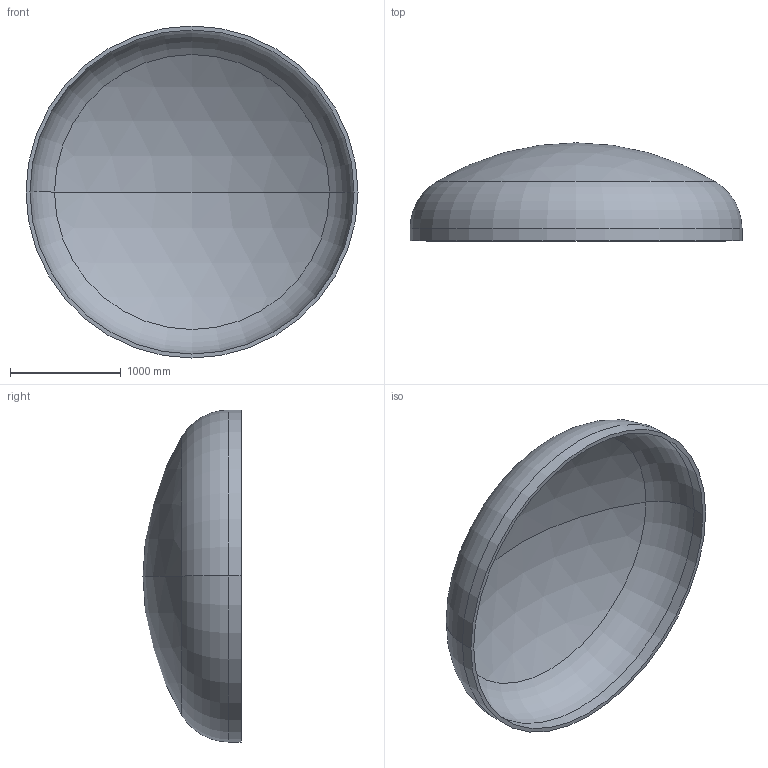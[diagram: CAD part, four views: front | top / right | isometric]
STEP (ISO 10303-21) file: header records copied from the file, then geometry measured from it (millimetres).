
FILE_DESCRIPTION (( 'STEP AP203' ), '1' );
FILE_NAME ('DIN 28013 Korbbogenform_-_Boden DIN 28013 - 3000 x 110 - I - s=36.step', '2016-07-01T17:43:38', ( '' ), ( '' ), 'SwSTEP 2.0', 'SolidWorks 2013', '' );
FILE_SCHEMA (( 'CONFIG_CONTROL_DESIGN' ));
Length unit declared in the file: millimetre
Products named in the file (1): DIN 28013 Korbbogenform_-_Boden DIN 28013 - 3000 x 110 - I - s=36
Bounding box: 3000 x 886 x 3000 mm (x, y, z)
Volume: 383467317.6 mm3; surface area: 21641667 mm2
Topology: 1 solids, 1 shells, 13 faces, 24 edges, 14 vertices
Faces by surface type: torus 4, cylinder 4, sphere 4, plane 1
Entity records: 407 total; most frequent: DIRECTION 72, CARTESIAN_POINT 52, ORIENTED_EDGE 48, AXIS2_PLACEMENT_3D 34, EDGE_CURVE 24, CIRCLE 20, EDGE_LOOP 14, VERTEX_POINT 14
